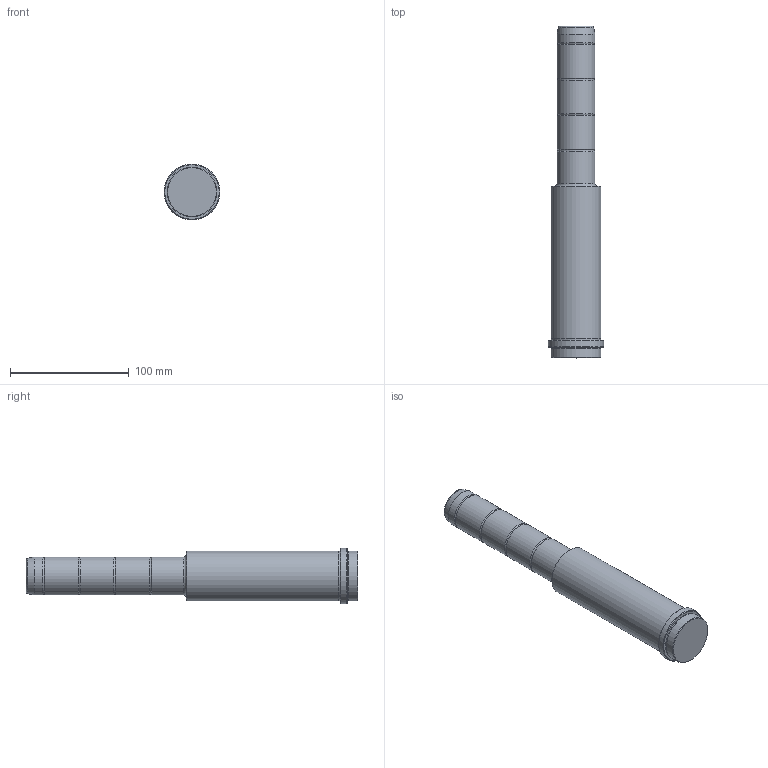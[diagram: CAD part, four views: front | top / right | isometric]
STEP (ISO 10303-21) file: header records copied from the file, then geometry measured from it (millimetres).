
FILE_DESCRIPTION( ( 'STEP AP203' ), '1' );
FILE_NAME( 'D:/Cuma/24 03 2009/D03/D03_32X136X135.step', '2002-12-31T23:38:21', ( ' ' ), ( ' ' ), 'XStep 1.0', ' ', ' ' );
FILE_SCHEMA( ( 'CONFIG_CONTROL_DESIGN' ) );
Length unit declared in the file: metre
Products named in the file (1): 1
Bounding box: 47 x 280 x 47 mm (x, y, z)
Volume: 310795.2 mm3; surface area: 36085.3 mm2
Topology: 1 solids, 1 shells, 28 faces, 52 edges, 31 vertices
Faces by surface type: cylinder 10, plane 7, torus 6, cone 5
Full cylindrical faces by diameter (mm): 32 x5, 41.5 x2, 42 x2, 47 x1
Entity records: 599 total; most frequent: DIRECTION 112, CARTESIAN_POINT 83, AXIS2_PLACEMENT_3D 56, EDGE_LOOP 54, ORIENTED_EDGE 54, FACE_OUTER_BOUND 44, ADVANCED_FACE 28, EDGE_CURVE 27
